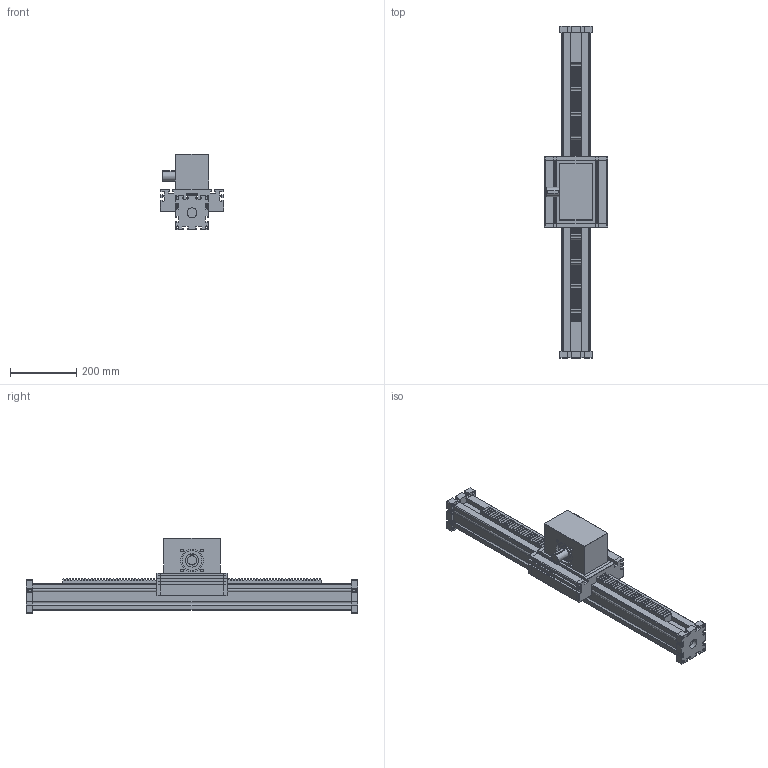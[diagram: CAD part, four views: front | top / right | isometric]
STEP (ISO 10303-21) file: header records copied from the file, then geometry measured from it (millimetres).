
FILE_DESCRIPTION (( 'STEP AP214' ), '1' );
FILE_NAME ('ELDZA80S.STEP', '2022-06-28T10:11:23', ( '' ), ( '' ), 'SwSTEP 2.0', 'SolidWorks 2020', '' );
FILE_SCHEMA (( 'AUTOMOTIVE_DESIGN' ));
Length unit declared in the file: millimetre
Products named in the file (5): profile^ELDZA80S_2x guide rods; drive block^ELDZA80S_shaft pos. 2; bearing block^ELDZA80S_2x guide rods; ELDZA80S; carriage^ELDZA80S_carriage version 0
Assembly tree (5 placements, depth 2):
  ELDZA80S
    profile^ELDZA80S_2x guide rods
    carriage^ELDZA80S_carriage version 0
    drive block^ELDZA80S_shaft pos. 2
    bearing block^ELDZA80S_2x guide rods  x2
Bounding box: 190 x 1000 x 227 mm (x, y, z)
Volume: 9760288.5 mm3; surface area: 1034255.3 mm2
Topology: 10 solids, 10 shells, 1129 faces, 3227 edges, 2134 vertices
Faces by surface type: plane 962, cylinder 147, torus 8, cone 8, sphere 4
Entity records: 33033 total; most frequent: CARTESIAN_POINT 5475, ORIENTED_EDGE 5364, DIRECTION 4838, EDGE_CURVE 2682, VECTOR 2416, LINE 2416, VERTEX_POINT 1776, AXIS2_PLACEMENT_3D 1211
